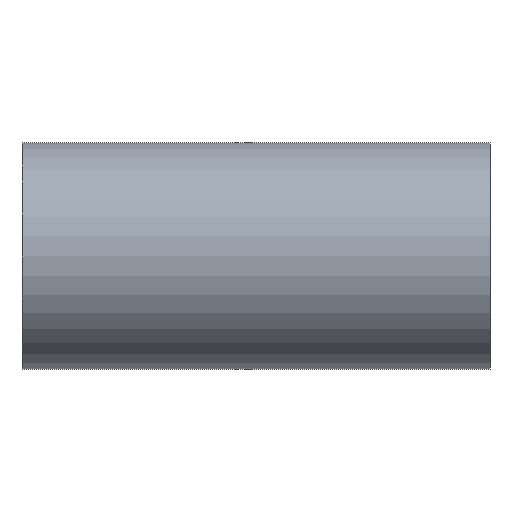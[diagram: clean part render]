
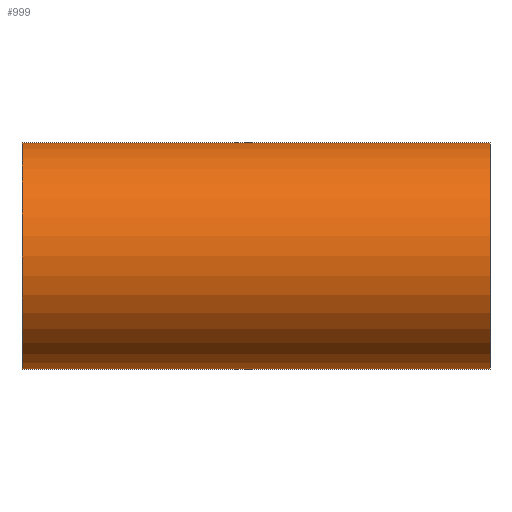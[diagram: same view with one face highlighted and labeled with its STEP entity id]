
A CAD part, front view. The second image highlights one B-rep face of the part: STEP entity #999.
In plain terms, the highlighted cylindrical face has radius 50.8 mm (diameter 101.6 mm), a partial arc.
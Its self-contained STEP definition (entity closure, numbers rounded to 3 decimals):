
#5 = VERTEX_POINT ( 'NONE', #879 ) ;
#102 = VERTEX_POINT ( 'NONE', #1067 ) ;
#113 = CIRCLE ( 'NONE', #1263, 50.8 ) ;
#142 = LINE ( 'NONE', #433, #940 ) ;
#231 = AXIS2_PLACEMENT_3D ( 'NONE', #1195, #1177, #1135 ) ;
#239 = ORIENTED_EDGE ( 'NONE', *, *, #1140, .F. ) ;
#287 = EDGE_LOOP ( 'NONE', ( #239, #399, #525, #664 ) ) ;
#329 = DIRECTION ( 'NONE',  ( 1., 0., 0. ) ) ;
#387 = EDGE_CURVE ( 'NONE', #5, #1090, #113, .T. ) ;
#392 = DIRECTION ( 'NONE',  ( 1., 0., 0. ) ) ;
#399 = ORIENTED_EDGE ( 'NONE', *, *, #1100, .T. ) ;
#433 = CARTESIAN_POINT ( 'NONE',  ( -104.8, 0., 50.8 ) ) ;
#489 = CYLINDRICAL_SURFACE ( 'NONE', #1205, 50.8 ) ;
#525 = ORIENTED_EDGE ( 'NONE', *, *, #893, .T. ) ;
#616 = CARTESIAN_POINT ( 'NONE',  ( 104.8, 0., 0. ) ) ;
#621 = DIRECTION ( 'NONE',  ( -1., 0., 0. ) ) ;
#657 = VECTOR ( 'NONE', #329, 1000. ) ;
#664 = ORIENTED_EDGE ( 'NONE', *, *, #387, .T. ) ;
#694 = CIRCLE ( 'NONE', #231, 50.8 ) ;
#769 = DIRECTION ( 'NONE',  ( 1., 0., 0. ) ) ;
#806 = DIRECTION ( 'NONE',  ( 0., 0., -1. ) ) ;
#858 = DIRECTION ( 'NONE',  ( 0., 0., -1. ) ) ;
#879 = CARTESIAN_POINT ( 'NONE',  ( 104.8, 0., -50.8 ) ) ;
#893 = EDGE_CURVE ( 'NONE', #102, #5, #1165, .T. ) ;
#940 = VECTOR ( 'NONE', #392, 1000. ) ;
#945 = CARTESIAN_POINT ( 'NONE',  ( 104.8, 0., 50.8 ) ) ;
#960 = CARTESIAN_POINT ( 'NONE',  ( -104.8, 0., 0. ) ) ;
#999 = ADVANCED_FACE ( 'NONE', ( #1288 ), #489, .T. ) ;
#1003 = VERTEX_POINT ( 'NONE', #1085 ) ;
#1067 = CARTESIAN_POINT ( 'NONE',  ( -104.8, 0., -50.8 ) ) ;
#1085 = CARTESIAN_POINT ( 'NONE',  ( -104.8, 0., 50.8 ) ) ;
#1086 = CARTESIAN_POINT ( 'NONE',  ( -104.8, 0., -50.8 ) ) ;
#1090 = VERTEX_POINT ( 'NONE', #945 ) ;
#1100 = EDGE_CURVE ( 'NONE', #1003, #102, #694, .T. ) ;
#1135 = DIRECTION ( 'NONE',  ( 0., 0., -1. ) ) ;
#1140 = EDGE_CURVE ( 'NONE', #1003, #1090, #142, .T. ) ;
#1165 = LINE ( 'NONE', #1086, #657 ) ;
#1177 = DIRECTION ( 'NONE',  ( 1., 0., 0. ) ) ;
#1195 = CARTESIAN_POINT ( 'NONE',  ( -104.8, 0., 0. ) ) ;
#1205 = AXIS2_PLACEMENT_3D ( 'NONE', #960, #769, #858 ) ;
#1263 = AXIS2_PLACEMENT_3D ( 'NONE', #616, #621, #806 ) ;
#1288 = FACE_OUTER_BOUND ( 'NONE', #287, .T. ) ;
